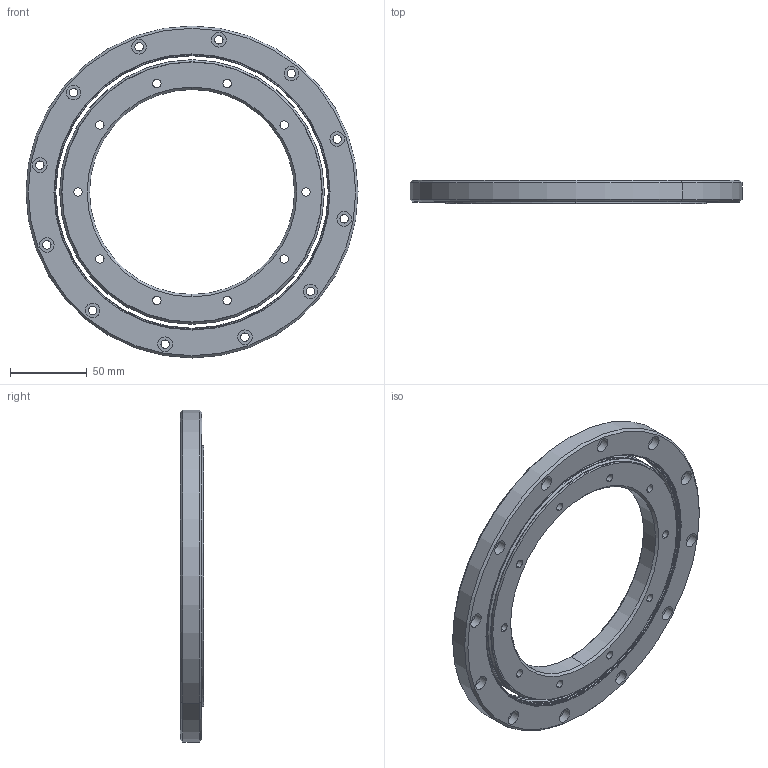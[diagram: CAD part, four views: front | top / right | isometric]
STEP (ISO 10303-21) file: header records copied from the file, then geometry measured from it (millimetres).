
FILE_DESCRIPTION (( 'STEP AP214' ), '1' );
FILE_NAME ('TTS2-134-217-15 Bearing Assembly.STEP', '2018-03-14T15:15:16', ( 'Admin' ), ( '' ), 'SwSTEP 2.0', 'SolidWorks 2018', '' );
FILE_SCHEMA (( 'AUTOMOTIVE_DESIGN' ));
Length unit declared in the file: inch
Products named in the file (3): TTS2 Outer Ring_TTS2-134-217-15; TTS2 Inner Ring_TTS2-134-217-15; TTS2-134-217-15 Bearing Assembly
Assembly tree (2 placements, depth 2):
  TTS2-134-217-15 Bearing Assembly
    TTS2 Inner Ring_TTS2-134-217-15
    TTS2 Outer Ring_TTS2-134-217-15
Bounding box: 215.9 x 15 x 215.9 mm (x, y, z)
Volume: 272306.1 mm3; surface area: 77146 mm2
Topology: 2 solids, 2 shells, 190 faces, 424 edges, 262 vertices
Faces by surface type: cylinder 112, cone 28, plane 28, torus 22
Entity records: 5576 total; most frequent: DIRECTION 1098, CARTESIAN_POINT 881, ORIENTED_EDGE 848, AXIS2_PLACEMENT_3D 479, EDGE_CURVE 424, CIRCLE 284, VERTEX_POINT 262, EDGE_LOOP 262
